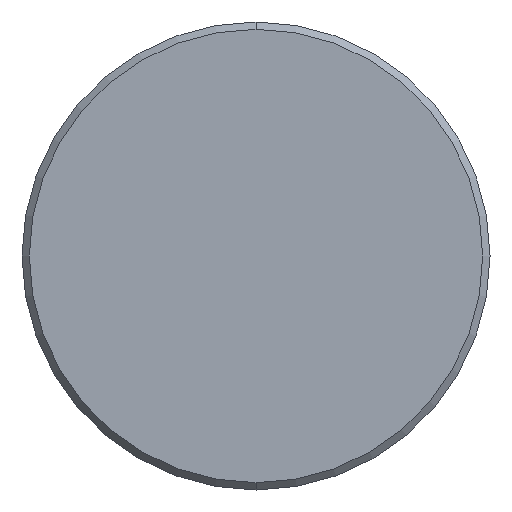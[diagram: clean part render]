
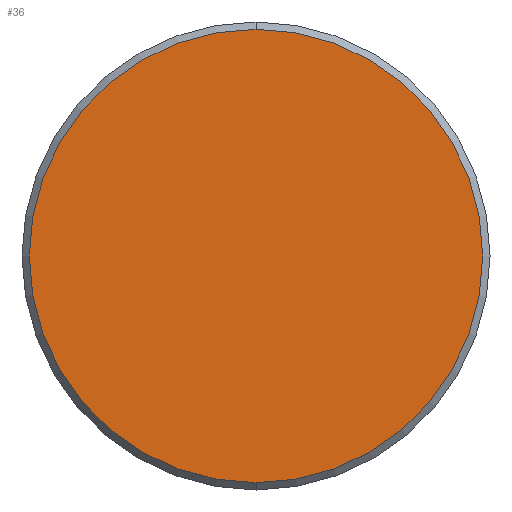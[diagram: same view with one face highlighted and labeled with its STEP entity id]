
A CAD part, front view. The second image highlights one B-rep face of the part: STEP entity #36.
In plain terms, the highlighted planar face has unit normal (0, -1, 0).
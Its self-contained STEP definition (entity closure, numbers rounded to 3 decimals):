
#10 = CARTESIAN_POINT ( 'NONE',  ( 0., 0., 0. ) ) ;
#13 = AXIS2_PLACEMENT_3D ( 'NONE', #10, #28, #264 ) ;
#15 = CIRCLE ( 'NONE', #242, 3.875 ) ;
#28 = DIRECTION ( 'NONE',  ( 0., -1., 0. ) ) ;
#30 = CARTESIAN_POINT ( 'NONE',  ( 0., 0., -3.875 ) ) ;
#36 = ADVANCED_FACE ( 'NONE', ( #214 ), #118, .F. ) ;
#78 = CIRCLE ( 'NONE', #13, 3.875 ) ;
#101 = VERTEX_POINT ( 'NONE', #113 ) ;
#113 = CARTESIAN_POINT ( 'NONE',  ( 0., 0., 3.875 ) ) ;
#117 = EDGE_LOOP ( 'NONE', ( #152, #203 ) ) ;
#118 = PLANE ( 'NONE',  #172 ) ;
#121 = CARTESIAN_POINT ( 'NONE',  ( 0., 0., 0. ) ) ;
#129 = EDGE_CURVE ( 'NONE', #101, #141, #78, .T. ) ;
#141 = VERTEX_POINT ( 'NONE', #30 ) ;
#144 = DIRECTION ( 'NONE',  ( 0., -1., 0. ) ) ;
#152 = ORIENTED_EDGE ( 'NONE', *, *, #129, .T. ) ;
#153 = CARTESIAN_POINT ( 'NONE',  ( 0., 0., 0. ) ) ;
#172 = AXIS2_PLACEMENT_3D ( 'NONE', #153, #219, #237 ) ;
#203 = ORIENTED_EDGE ( 'NONE', *, *, #209, .T. ) ;
#209 = EDGE_CURVE ( 'NONE', #141, #101, #15, .T. ) ;
#214 = FACE_OUTER_BOUND ( 'NONE', #117, .T. ) ;
#219 = DIRECTION ( 'NONE',  ( 0., 1., 0. ) ) ;
#237 = DIRECTION ( 'NONE',  ( 0., 0., 1. ) ) ;
#242 = AXIS2_PLACEMENT_3D ( 'NONE', #121, #144, #260 ) ;
#260 = DIRECTION ( 'NONE',  ( 0., 0., 1. ) ) ;
#264 = DIRECTION ( 'NONE',  ( 0., 0., 1. ) ) ;
